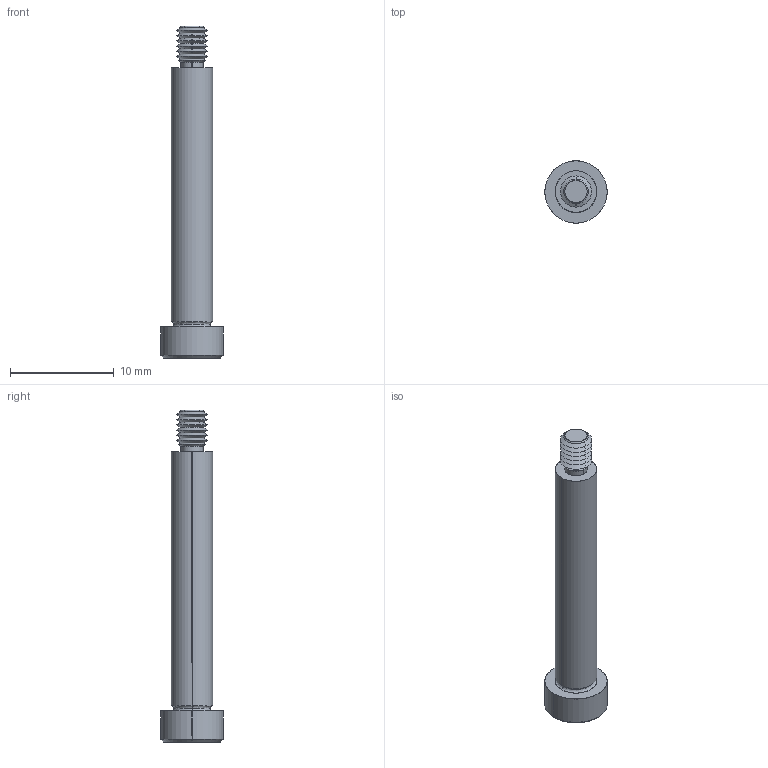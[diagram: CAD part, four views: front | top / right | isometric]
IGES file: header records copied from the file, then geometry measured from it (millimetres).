
Start section: SolidWorks IGES file using analytic representation for surfaces
Global section: file name: C:\Users\IanO\Documents\Temp Folder\GENERAL\SCREW REVISION\P0130_v2\P0130.T5_v2_20220106_IGES\P0130.040-025-T5.igs; native system: SolidWorks 2019; preprocessor: SolidWorks 2019; author: IanO; date: 220106.220919; units: millimetre
Bounding box: 6 x 6 x 32 mm (x, y, z)
Surface area: 499 mm2 (no closed solid volume)
Topology: 0 solids, 0 shells, 68 faces, 520 edges, 518 vertices
Faces by surface type: revolution 48, bspline 20
